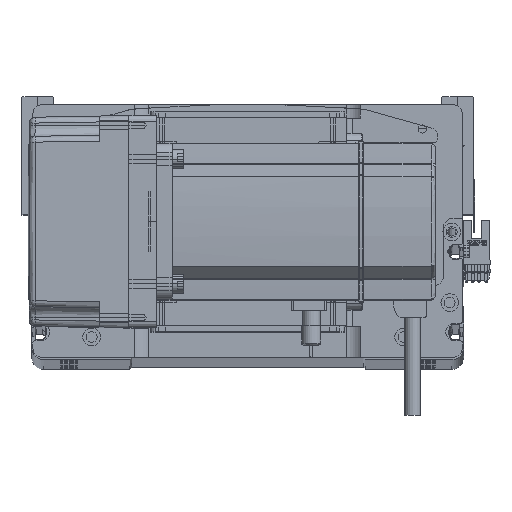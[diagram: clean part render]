
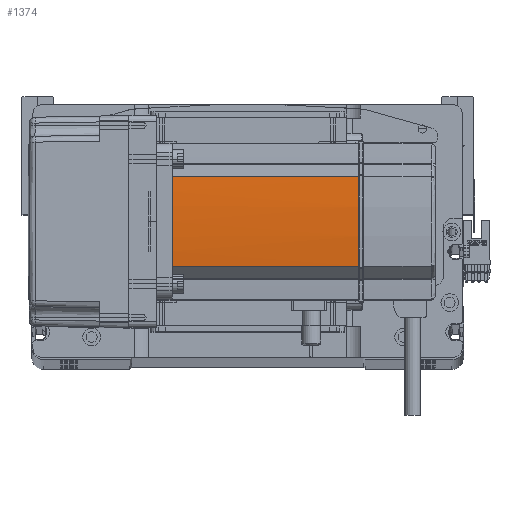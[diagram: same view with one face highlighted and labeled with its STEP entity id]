
A CAD part, top view. The second image highlights one B-rep face of the part: STEP entity #1374.
In plain terms, the highlighted cylindrical face has radius 270 mm (diameter 540 mm), a partial arc.
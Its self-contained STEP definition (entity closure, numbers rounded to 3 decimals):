
#1374 = ADVANCED_FACE ( 'NONE', ( #46347 ), #19995, .T. ) ;
#2676 = DIRECTION ( 'NONE',  ( -1., 0., 0. ) ) ;
#3766 = CARTESIAN_POINT ( 'NONE',  ( 40., 0.042, 134. ) ) ;
#4475 = VECTOR ( 'NONE', #44878, 1000. ) ;
#7359 = DIRECTION ( 'NONE',  ( 0., 0., -1. ) ) ;
#7669 = VERTEX_POINT ( 'NONE', #18165 ) ;
#8647 = DIRECTION ( 'NONE',  ( 0., 0., -1. ) ) ;
#9183 = CIRCLE ( 'NONE', #17969, 270. ) ;
#9886 = CIRCLE ( 'NONE', #19980, 270. ) ;
#10058 = CARTESIAN_POINT ( 'NONE',  ( 39.042, -22.724, 39. ) ) ;
#10219 = CIRCLE ( 'NONE', #57751, 270. ) ;
#11524 = EDGE_CURVE ( 'NONE', #45375, #25601, #49432, .T. ) ;
#13856 = ORIENTED_EDGE ( 'NONE', *, *, #54643, .F. ) ;
#16735 = DIRECTION ( 'NONE',  ( -1., 0., 0. ) ) ;
#16926 = CARTESIAN_POINT ( 'NONE',  ( 40., 0.127, 134. ) ) ;
#17399 = AXIS2_PLACEMENT_3D ( 'NONE', #34931, #21273, #16735 ) ;
#17969 = AXIS2_PLACEMENT_3D ( 'NONE', #29520, #7359, #2676 ) ;
#18097 = CARTESIAN_POINT ( 'NONE',  ( 39.042, 22.724, 134. ) ) ;
#18165 = CARTESIAN_POINT ( 'NONE',  ( 39.042, 22.724, 39. ) ) ;
#18713 = CARTESIAN_POINT ( 'NONE',  ( 40., -0.127, 134. ) ) ;
#19980 = AXIS2_PLACEMENT_3D ( 'NONE', #50584, #28408, #55496 ) ;
#19995 = CYLINDRICAL_SURFACE ( 'NONE', #17399, 270. ) ;
#21273 = DIRECTION ( 'NONE',  ( 0., 0., -1. ) ) ;
#24006 = VERTEX_POINT ( 'NONE', #40687 ) ;
#24702 = EDGE_CURVE ( 'NONE', #7669, #30360, #41041, .T. ) ;
#25086 = EDGE_CURVE ( 'NONE', #24006, #54463, #28306, .T. ) ;
#25601 = VERTEX_POINT ( 'NONE', #36929 ) ;
#27168 = ORIENTED_EDGE ( 'NONE', *, *, #51617, .T. ) ;
#28306 = LINE ( 'NONE', #40331, #4475 ) ;
#28408 = DIRECTION ( 'NONE',  ( 0., 0., -1. ) ) ;
#29520 = CARTESIAN_POINT ( 'NONE',  ( -230., 0., 134. ) ) ;
#30360 = VERTEX_POINT ( 'NONE', #18097 ) ;
#30989 = CARTESIAN_POINT ( 'NONE',  ( 40., -0.042, 134. ) ) ;
#34931 = CARTESIAN_POINT ( 'NONE',  ( -230., 0., 58. ) ) ;
#35549 = CARTESIAN_POINT ( 'NONE',  ( -230., 0., 39. ) ) ;
#36387 = ORIENTED_EDGE ( 'NONE', *, *, #57620, .T. ) ;
#36929 = CARTESIAN_POINT ( 'NONE',  ( 40., 0.127, 134. ) ) ;
#39093 = ORIENTED_EDGE ( 'NONE', *, *, #24702, .T. ) ;
#40331 = CARTESIAN_POINT ( 'NONE',  ( 39.042, -22.724, 58. ) ) ;
#40687 = CARTESIAN_POINT ( 'NONE',  ( 39.042, -22.724, 134. ) ) ;
#41041 = LINE ( 'NONE', #49362, #52974 ) ;
#42873 = ORIENTED_EDGE ( 'NONE', *, *, #25086, .T. ) ;
#44404 = DIRECTION ( 'NONE',  ( -1., 0., 0. ) ) ;
#44878 = DIRECTION ( 'NONE',  ( 0., 0., -1. ) ) ;
#45304 = ORIENTED_EDGE ( 'NONE', *, *, #11524, .F. ) ;
#45375 = VERTEX_POINT ( 'NONE', #18713 ) ;
#46347 = FACE_OUTER_BOUND ( 'NONE', #51080, .T. ) ;
#49362 = CARTESIAN_POINT ( 'NONE',  ( 39.042, 22.724, 58. ) ) ;
#49432 = B_SPLINE_CURVE_WITH_KNOTS ( 'NONE', 3,
 ( #57327, #30989, #3766, #16926 ),
 .UNSPECIFIED., .F., .F.,
 ( 4, 4 ),
 ( 0., 1. ),
 .UNSPECIFIED. ) ;
#49547 = DIRECTION ( 'NONE',  ( 0., 0., 1. ) ) ;
#50584 = CARTESIAN_POINT ( 'NONE',  ( -230., 0., 134. ) ) ;
#51080 = EDGE_LOOP ( 'NONE', ( #42873, #13856, #39093, #27168, #45304, #36387 ) ) ;
#51617 = EDGE_CURVE ( 'NONE', #30360, #25601, #9183, .T. ) ;
#52974 = VECTOR ( 'NONE', #49547, 1000. ) ;
#54463 = VERTEX_POINT ( 'NONE', #10058 ) ;
#54643 = EDGE_CURVE ( 'NONE', #7669, #54463, #10219, .T. ) ;
#55496 = DIRECTION ( 'NONE',  ( -1., 0., 0. ) ) ;
#57327 = CARTESIAN_POINT ( 'NONE',  ( 40., -0.127, 134. ) ) ;
#57620 = EDGE_CURVE ( 'NONE', #45375, #24006, #9886, .T. ) ;
#57751 = AXIS2_PLACEMENT_3D ( 'NONE', #35549, #8647, #44404 ) ;
